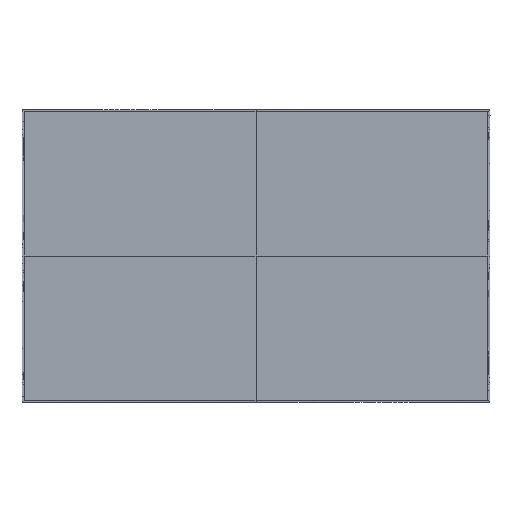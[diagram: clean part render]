
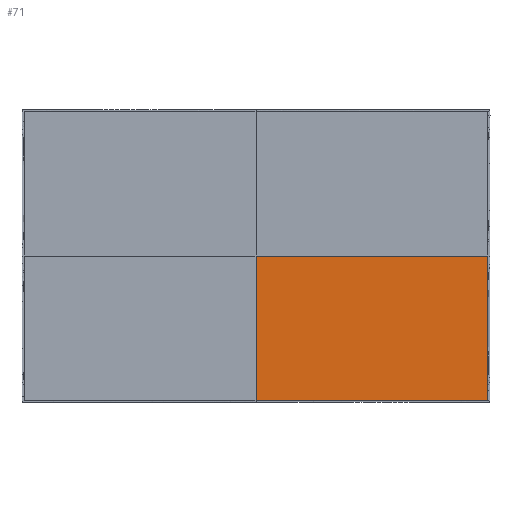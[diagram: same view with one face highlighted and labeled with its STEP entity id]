
A CAD part, front view. The second image highlights one B-rep face of the part: STEP entity #71.
In plain terms, the highlighted planar face has unit normal (0, -1, 0).
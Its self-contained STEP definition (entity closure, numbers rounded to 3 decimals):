
#71=ADVANCED_FACE($,(#135),#705,.T.);
#135=FACE_OUTER_BOUND($,#199,.T.);
#199=EDGE_LOOP($,(#360,#361,#362,#363));
#360=ORIENTED_EDGE($,*,*,#539,.F.);
#361=ORIENTED_EDGE($,*,*,#542,.T.);
#362=ORIENTED_EDGE($,*,*,#536,.T.);
#363=ORIENTED_EDGE($,*,*,#550,.F.);
#536=EDGE_CURVE($,#640,#646,#778,.T.);
#539=EDGE_CURVE($,#642,#648,#781,.T.);
#542=EDGE_CURVE($,#642,#640,#784,.T.);
#550=EDGE_CURVE($,#648,#646,#792,.T.);
#640=VERTEX_POINT($,#1368);
#642=VERTEX_POINT($,#1370);
#646=VERTEX_POINT($,#1374);
#648=VERTEX_POINT($,#1376);
#705=PLANE($,#957);
#778=B_SPLINE_CURVE_WITH_KNOTS($,1,(#1264,#1265),.UNSPECIFIED.,.F.,.F.,(2,
2),(2658.,3150.999),.UNSPECIFIED.);
#781=B_SPLINE_CURVE_WITH_KNOTS($,3,(#1270,#1271,#1272,#1273),.UNSPECIFIED.,
.F.,.F.,(4,4),(0.,492.999),.UNSPECIFIED.);
#784=B_SPLINE_CURVE_WITH_KNOTS($,1,(#1282,#1283),.UNSPECIFIED.,.F.,.F.,(2,
2),(1864.999,2658.),.UNSPECIFIED.);
#792=B_SPLINE_CURVE_WITH_KNOTS($,3,(#1300,#1301,#1302,#1303),.UNSPECIFIED.,
.F.,.F.,(4,4),(0.,793.001),.UNSPECIFIED.);
#957=AXIS2_PLACEMENT_3D($,#1355,#1000,$);
#1000=DIRECTION($,(0.,-1.,0.));
#1264=CARTESIAN_POINT($,(1660.874,-41.454,-560.715));
#1265=CARTESIAN_POINT($,(1660.874,-41.454,-67.717));
#1270=CARTESIAN_POINT($,(867.872,-41.454,-560.715));
#1271=CARTESIAN_POINT($,(867.872,-41.454,-396.382));
#1272=CARTESIAN_POINT($,(867.872,-41.454,-232.05));
#1273=CARTESIAN_POINT($,(867.872,-41.454,-67.717));
#1282=CARTESIAN_POINT($,(867.872,-41.454,-560.715));
#1283=CARTESIAN_POINT($,(1660.874,-41.454,-560.715));
#1300=CARTESIAN_POINT($,(867.872,-41.454,-67.717));
#1301=CARTESIAN_POINT($,(1132.206,-41.454,-67.717));
#1302=CARTESIAN_POINT($,(1396.54,-41.454,-67.717));
#1303=CARTESIAN_POINT($,(1660.874,-41.454,-67.717));
#1355=CARTESIAN_POINT($,(1660.874,-41.454,-67.717));
#1368=CARTESIAN_POINT($,(1660.874,-41.454,-560.715));
#1370=CARTESIAN_POINT($,(867.872,-41.454,-560.715));
#1374=CARTESIAN_POINT($,(1660.874,-41.454,-67.717));
#1376=CARTESIAN_POINT($,(867.872,-41.454,-67.717));
